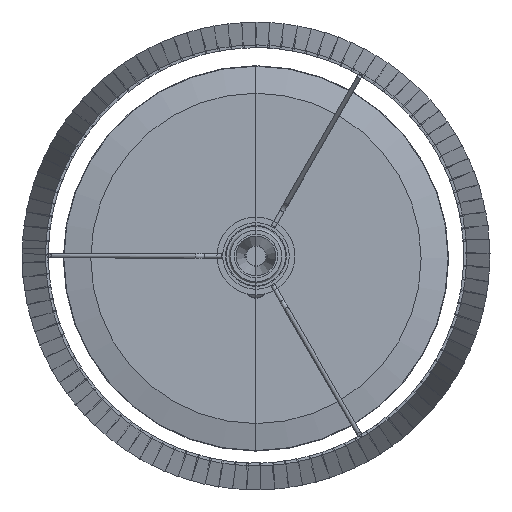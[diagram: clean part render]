
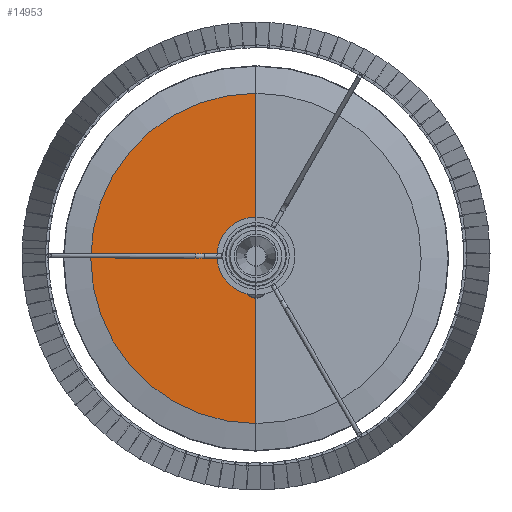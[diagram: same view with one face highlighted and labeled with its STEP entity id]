
A CAD part, top view. The second image highlights one B-rep face of the part: STEP entity #14953.
In plain terms, the highlighted planar face has unit normal (0, 0, 1).
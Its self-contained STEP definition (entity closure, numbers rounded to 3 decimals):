
#441=FACE_OUTER_BOUND('',#1395,.T.);
#1395=EDGE_LOOP('',(#10060,#10061,#10062,#10063));
#2332=LINE('',#21854,#4308);
#2333=LINE('',#21855,#4309);
#4308=VECTOR('',#17306,304.8);
#4309=VECTOR('',#17307,304.8);
#6287=CIRCLE('',#16074,10.077);
#6289=CIRCLE('',#16078,141.508);
#6384=VERTEX_POINT('',#21840);
#6385=VERTEX_POINT('',#21841);
#6386=VERTEX_POINT('',#21851);
#6387=VERTEX_POINT('',#21852);
#7821=EDGE_CURVE('',#6385,#6384,#6287,.T.);
#7823=EDGE_CURVE('',#6384,#6386,#2332,.T.);
#7824=EDGE_CURVE('',#6387,#6385,#2333,.T.);
#7825=EDGE_CURVE('',#6387,#6386,#6289,.T.);
#10060=ORIENTED_EDGE('',*,*,#7825,.F.);
#10061=ORIENTED_EDGE('',*,*,#7824,.T.);
#10062=ORIENTED_EDGE('',*,*,#7821,.T.);
#10063=ORIENTED_EDGE('',*,*,#7823,.T.);
#14027=PLANE('',#16077);
#14953=ADVANCED_FACE('',(#441),#14027,.T.);
#16074=AXIS2_PLACEMENT_3D('',#21849,#17300,#17301);
#16077=AXIS2_PLACEMENT_3D('',#21856,#17308,#17309);
#16078=AXIS2_PLACEMENT_3D('',#21857,#17310,#17311);
#17300=DIRECTION('center_axis',(0.,0.,-1.));
#17301=DIRECTION('ref_axis',(0.,1.,0.));
#17306=DIRECTION('',(0.,1.,0.));
#17307=DIRECTION('',(0.,1.,0.));
#17308=DIRECTION('center_axis',(0.,0.,1.));
#17309=DIRECTION('ref_axis',(0.,1.,0.));
#17310=DIRECTION('center_axis',(0.,0.,-1.));
#17311=DIRECTION('ref_axis',(-0.588,0.809,0.));
#21840=CARTESIAN_POINT('',(0.,10.077,6.218));
#21841=CARTESIAN_POINT('',(0.,-10.077,6.218));
#21849=CARTESIAN_POINT('Origin',(0.,0.,6.218));
#21851=CARTESIAN_POINT('',(0.,141.508,6.218));
#21852=CARTESIAN_POINT('',(0.,-141.508,6.218));
#21854=CARTESIAN_POINT('',(0.,10.077,6.218));
#21855=CARTESIAN_POINT('',(0.,-141.508,6.218));
#21856=CARTESIAN_POINT('Origin',(0.,0.,6.218));
#21857=CARTESIAN_POINT('Origin',(0.,0.,
6.218));
